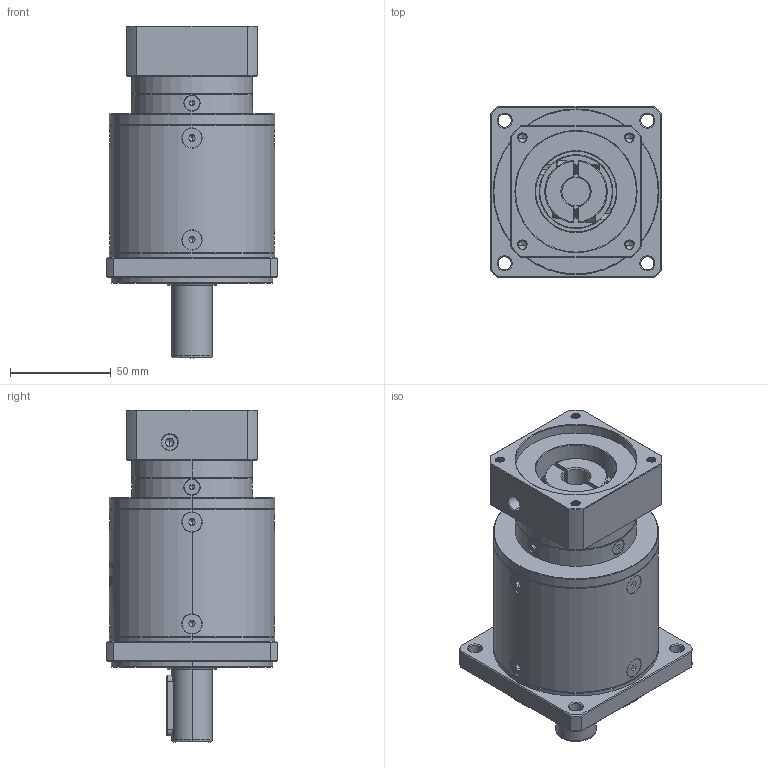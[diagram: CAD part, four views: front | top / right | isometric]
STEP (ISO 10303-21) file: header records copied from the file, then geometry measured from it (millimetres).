
FILE_DESCRIPTION (( 'STEP AP214' ), '1' );
FILE_NAME ('ZF80-D20-L3-14-60-75-M5.step', '2022-05-08T09:24:53', ( '' ), ( 'Microsoft' ), 'SwSTEP 2.0', 'SolidWorks 2016', '' );
FILE_SCHEMA (( 'AUTOMOTIVE_DESIGN' ));
Length unit declared in the file: millimetre
Products named in the file (1): ZF80-D20-L3-14-60-75-M5
Bounding box: 85 x 85 x 164.5 mm (x, y, z)
Volume: 584748.1 mm3; surface area: 75504.6 mm2
Topology: 18 solids, 18 shells, 2047 faces, 5357 edges, 3407 vertices
Faces by surface type: plane 953, cylinder 425, bspline 328, cone 327, torus 14
Entity records: 111091 total; most frequent: CARTESIAN_POINT 41731, ORIENTED_EDGE 10638, DIRECTION 8489, EDGE_CURVE 5319, VERTEX_POINT 3407, LINE 2871, VECTOR 2871, AXIS2_PLACEMENT_3D 2809
